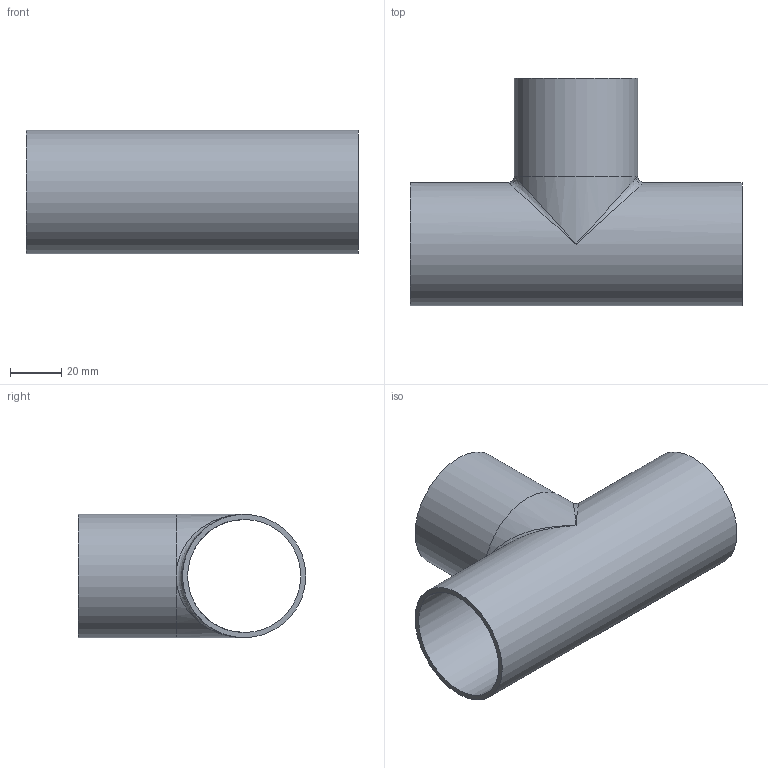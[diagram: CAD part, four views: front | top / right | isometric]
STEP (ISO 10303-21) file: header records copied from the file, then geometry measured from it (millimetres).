
FILE_DESCRIPTION(/* description */ ('DOCKWEILER AG - 19306 Germany - An der Autobahn 10/20'),/* implementation_level */ '2;1');
FILE_NAME(/* name */ '\\Dwgfs01\cad\CAD\Projekte\N0010_001_001_001\T_48,3x2_48,3x2_L130_l65_V00.ipt.stp',/* time_stamp */ '2014-07-04T12:10:45+02:00',/* author */ ('DOCKWEILER AG - 19306 Germany - An der Autobahn 10/20'),/* organization */ ('DOCKWEILER AG - 19306 Germany - An der Autobahn 10/20'),/* preprocessor_version */ 'ST-DEVELOPER v15.6',/* originating_system */ 'Autodesk Inventor 2015',/* authorisation */ '');
FILE_SCHEMA (('CONFIG_CONTROL_DESIGN'));
Length unit declared in the file: millimetre
Products named in the file (1): T_48,3x2_48,3x2_L130_l65_V00
Bounding box: 130 x 89.15 x 48.3 mm (x, y, z)
Volume: 48154.4 mm3; surface area: 49474.3 mm2
Topology: 2 solids, 2 shells, 16 faces, 41 edges, 20 vertices
Faces by surface type: cylinder 7, plane 5, bspline 4
Full cylindrical faces by diameter (mm): 44.3 x3, 48.3 x2
Entity records: 1565 total; most frequent: CARTESIAN_POINT 1229, DIRECTION 68, ORIENTED_EDGE 42, AXIS2_PLACEMENT_3D 34, EDGE_LOOP 28, EDGE_CURVE 21, STYLED_ITEM 18, FACE_OUTER_BOUND 16
